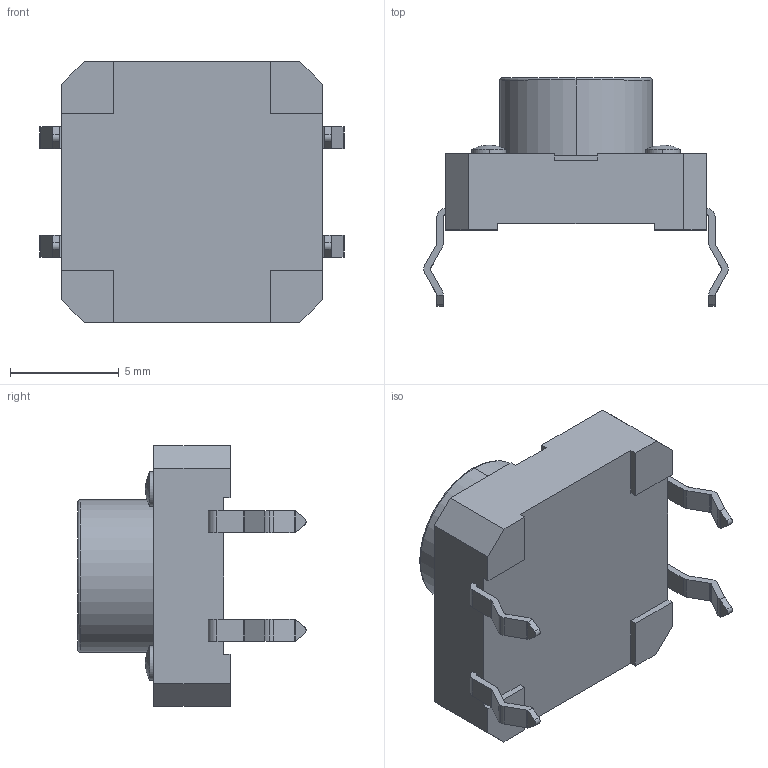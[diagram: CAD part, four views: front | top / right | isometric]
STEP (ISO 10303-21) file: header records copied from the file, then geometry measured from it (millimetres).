
FILE_DESCRIPTION (( 'STEP AP214' ), '1' );
FILE_NAME ('CUI_DEVICES_TS14-1212-70-BK-160-SCR-D.step', '2024-04-17T15:09:23', ( '' ), ( '' ), 'SwSTEP 2.0', 'SolidWorks 2024', '' );
FILE_SCHEMA (( 'AUTOMOTIVE_DESIGN' ));
Length unit declared in the file: inch
Products named in the file (1): CUI_DEVICES_TS14-1212-70-BK-160-SCR-D
Bounding box: 14 x 10.5 x 12 mm (x, y, z)
Volume: 592.5 mm3; surface area: 723.8 mm2
Topology: 6 solids, 6 shells, 175 faces, 468 edges, 306 vertices
Faces by surface type: plane 101, cylinder 68, sphere 4, torus 2
Entity records: 5468 total; most frequent: DIRECTION 948, CARTESIAN_POINT 930, ORIENTED_EDGE 912, EDGE_CURVE 456, LINE 316, VECTOR 316, AXIS2_PLACEMENT_3D 316, VERTEX_POINT 298
